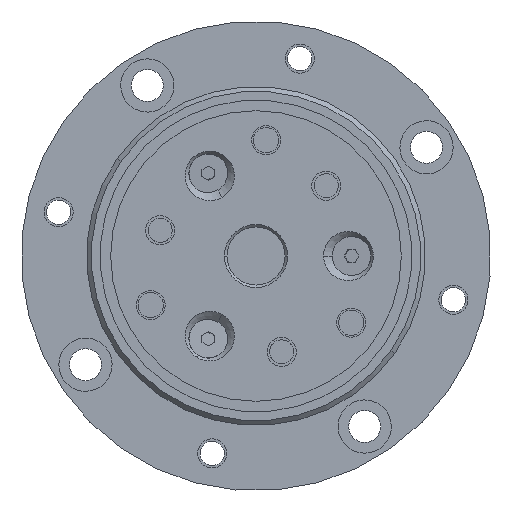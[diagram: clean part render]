
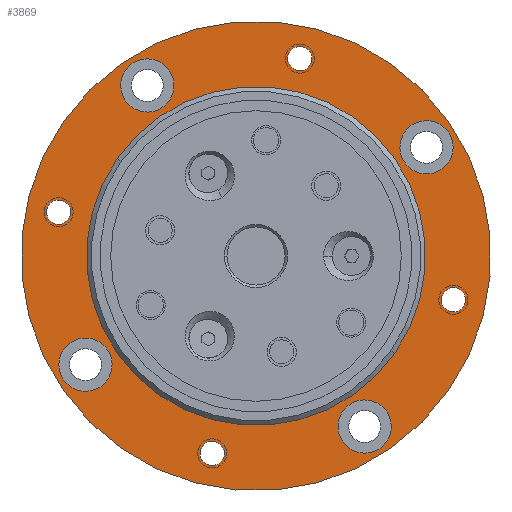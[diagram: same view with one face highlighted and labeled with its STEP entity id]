
A CAD part, front view. The second image highlights one B-rep face of the part: STEP entity #3869.
In plain terms, the highlighted planar face has unit normal (0, -1, 0).
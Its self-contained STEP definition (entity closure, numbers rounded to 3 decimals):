
#364=CARTESIAN_POINT('',(0.,6.,0.));
#365=DIRECTION('',(0.,1.,0.));
#366=DIRECTION('',(0.819,0.,-0.574));
#367=AXIS2_PLACEMENT_3D('',#364,#365,#366);
#369=CARTESIAN_POINT('',(0.,6.,0.));
#370=DIRECTION('',(0.,1.,0.));
#371=DIRECTION('',(-0.819,0.,0.574));
#372=AXIS2_PLACEMENT_3D('',#369,#370,#371);
#374=CARTESIAN_POINT('',(22.432,6.,-35.212));
#375=DIRECTION('',(0.,-1.,0.));
#376=DIRECTION('',(-0.537,0.,0.843));
#377=AXIS2_PLACEMENT_3D('',#374,#375,#376);
#379=CARTESIAN_POINT('',(22.432,6.,-35.212));
#380=DIRECTION('',(0.,-1.,0.));
#381=DIRECTION('',(0.537,0.,-0.843));
#382=AXIS2_PLACEMENT_3D('',#379,#380,#381);
#384=CARTESIAN_POINT('',(-35.212,6.,-22.432));
#385=DIRECTION('',(0.,-1.,0.));
#386=DIRECTION('',(0.843,0.,0.537));
#387=AXIS2_PLACEMENT_3D('',#384,#385,#386);
#389=CARTESIAN_POINT('',(-35.212,6.,-22.432));
#390=DIRECTION('',(0.,-1.,0.));
#391=DIRECTION('',(-0.843,0.,-0.537));
#392=AXIS2_PLACEMENT_3D('',#389,#390,#391);
#394=CARTESIAN_POINT('',(-22.432,6.,35.212));
#395=DIRECTION('',(0.,-1.,0.));
#396=DIRECTION('',(0.537,0.,-0.843));
#397=AXIS2_PLACEMENT_3D('',#394,#395,#396);
#399=CARTESIAN_POINT('',(-22.432,6.,35.212));
#400=DIRECTION('',(0.,-1.,0.));
#401=DIRECTION('',(-0.537,0.,0.843));
#402=AXIS2_PLACEMENT_3D('',#399,#400,#401);
#404=CARTESIAN_POINT('',(35.212,6.,22.432));
#405=DIRECTION('',(0.,-1.,0.));
#406=DIRECTION('',(-0.843,0.,-0.537));
#407=AXIS2_PLACEMENT_3D('',#404,#405,#406);
#409=CARTESIAN_POINT('',(35.212,6.,22.432));
#410=DIRECTION('',(0.,-1.,0.));
#411=DIRECTION('',(0.843,0.,0.537));
#412=AXIS2_PLACEMENT_3D('',#409,#410,#411);
#414=CARTESIAN_POINT('',(-9.036,6.,-40.76));
#415=DIRECTION('',(0.,-1.,0.));
#416=DIRECTION('',(0.216,0.,0.976));
#417=AXIS2_PLACEMENT_3D('',#414,#415,#416);
#419=CARTESIAN_POINT('',(-9.036,6.,-40.76));
#420=DIRECTION('',(0.,-1.,0.));
#421=DIRECTION('',(-0.216,0.,-0.976));
#422=AXIS2_PLACEMENT_3D('',#419,#420,#421);
#424=CARTESIAN_POINT('',(-40.76,6.,9.036));
#425=DIRECTION('',(0.,-1.,0.));
#426=DIRECTION('',(0.976,0.,-0.216));
#427=AXIS2_PLACEMENT_3D('',#424,#425,#426);
#429=CARTESIAN_POINT('',(-40.76,6.,9.036));
#430=DIRECTION('',(0.,-1.,0.));
#431=DIRECTION('',(-0.976,0.,0.216));
#432=AXIS2_PLACEMENT_3D('',#429,#430,#431);
#434=CARTESIAN_POINT('',(9.036,6.,40.76));
#435=DIRECTION('',(0.,-1.,0.));
#436=DIRECTION('',(-0.216,0.,-0.976));
#437=AXIS2_PLACEMENT_3D('',#434,#435,#436);
#439=CARTESIAN_POINT('',(9.036,6.,40.76));
#440=DIRECTION('',(0.,-1.,0.));
#441=DIRECTION('',(0.216,0.,0.976));
#442=AXIS2_PLACEMENT_3D('',#439,#440,#441);
#444=CARTESIAN_POINT('',(40.76,6.,-9.036));
#445=DIRECTION('',(0.,-1.,0.));
#446=DIRECTION('',(-0.976,0.,0.216));
#447=AXIS2_PLACEMENT_3D('',#444,#445,#446);
#449=CARTESIAN_POINT('',(40.76,6.,-9.036));
#450=DIRECTION('',(0.,-1.,0.));
#451=DIRECTION('',(0.976,0.,-0.216));
#452=AXIS2_PLACEMENT_3D('',#449,#450,#451);
#638=CARTESIAN_POINT('',(0.,6.,0.));
#639=DIRECTION('',(0.,1.,0.));
#640=DIRECTION('',(-0.819,0.,0.574));
#641=AXIS2_PLACEMENT_3D('',#638,#639,#640);
#643=CARTESIAN_POINT('',(0.,6.,0.));
#644=DIRECTION('',(0.,1.,0.));
#645=DIRECTION('',(0.819,0.,-0.574));
#646=AXIS2_PLACEMENT_3D('',#643,#644,#645);
#2951=CARTESIAN_POINT('',(39.729,6.,-27.818));
#2952=CARTESIAN_POINT('',(-39.729,6.,27.818));
#2953=VERTEX_POINT('',#2951);
#2954=VERTEX_POINT('',#2952);
#2955=CARTESIAN_POINT('',(19.477,6.,-30.573));
#2956=CARTESIAN_POINT('',(25.387,6.,-39.85));
#2957=VERTEX_POINT('',#2955);
#2958=VERTEX_POINT('',#2956);
#2959=CARTESIAN_POINT('',(-30.573,6.,-19.477));
#2960=CARTESIAN_POINT('',(-39.85,6.,-25.387));
#2961=VERTEX_POINT('',#2959);
#2962=VERTEX_POINT('',#2960);
#2963=CARTESIAN_POINT('',(-19.477,6.,30.573));
#2964=CARTESIAN_POINT('',(-25.387,6.,39.85));
#2965=VERTEX_POINT('',#2963);
#2966=VERTEX_POINT('',#2964);
#2967=CARTESIAN_POINT('',(30.573,6.,19.477));
#2968=CARTESIAN_POINT('',(39.85,6.,25.387));
#2969=VERTEX_POINT('',#2967);
#2970=VERTEX_POINT('',#2968);
#2971=CARTESIAN_POINT('',(-8.495,6.,-38.32));
#2972=CARTESIAN_POINT('',(-9.577,6.,-43.201));
#2973=VERTEX_POINT('',#2971);
#2974=VERTEX_POINT('',#2972);
#2975=CARTESIAN_POINT('',(-38.32,6.,8.495));
#2976=CARTESIAN_POINT('',(-43.201,6.,9.577));
#2977=VERTEX_POINT('',#2975);
#2978=VERTEX_POINT('',#2976);
#2979=CARTESIAN_POINT('',(8.495,6.,38.32));
#2980=CARTESIAN_POINT('',(9.577,6.,43.201));
#2981=VERTEX_POINT('',#2979);
#2982=VERTEX_POINT('',#2980);
#2983=CARTESIAN_POINT('',(38.32,6.,-8.495));
#2984=CARTESIAN_POINT('',(43.201,6.,-9.577));
#2985=VERTEX_POINT('',#2983);
#2986=VERTEX_POINT('',#2984);
#3455=CARTESIAN_POINT('',(-28.67,6.,20.075));
#3456=CARTESIAN_POINT('',(28.67,6.,-20.075));
#3457=VERTEX_POINT('',#3455);
#3458=VERTEX_POINT('',#3456);
#3805=CARTESIAN_POINT('',(0.,6.,0.));
#3806=DIRECTION('',(0.,1.,0.));
#3807=DIRECTION('',(0.819,0.,-0.574));
#3808=AXIS2_PLACEMENT_3D('',#3805,#3806,#3807);
#3809=PLANE('',#3808);
#3810=ORIENTED_EDGE('',*,*,#3795,.T.);
#3812=ORIENTED_EDGE('',*,*,#3811,.T.);
#3813=EDGE_LOOP('',(#3810,#3812));
#3814=FACE_OUTER_BOUND('',#3813,.F.);
#3816=ORIENTED_EDGE('',*,*,#3815,.T.);
#3818=ORIENTED_EDGE('',*,*,#3817,.T.);
#3819=EDGE_LOOP('',(#3816,#3818));
#3820=FACE_BOUND('',#3819,.F.);
#3822=ORIENTED_EDGE('',*,*,#3821,.T.);
#3824=ORIENTED_EDGE('',*,*,#3823,.T.);
#3825=EDGE_LOOP('',(#3822,#3824));
#3826=FACE_BOUND('',#3825,.F.);
#3828=ORIENTED_EDGE('',*,*,#3827,.T.);
#3830=ORIENTED_EDGE('',*,*,#3829,.T.);
#3831=EDGE_LOOP('',(#3828,#3830));
#3832=FACE_BOUND('',#3831,.F.);
#3834=ORIENTED_EDGE('',*,*,#3833,.T.);
#3836=ORIENTED_EDGE('',*,*,#3835,.T.);
#3837=EDGE_LOOP('',(#3834,#3836));
#3838=FACE_BOUND('',#3837,.F.);
#3840=ORIENTED_EDGE('',*,*,#3839,.T.);
#3842=ORIENTED_EDGE('',*,*,#3841,.T.);
#3843=EDGE_LOOP('',(#3840,#3842));
#3844=FACE_BOUND('',#3843,.F.);
#3846=ORIENTED_EDGE('',*,*,#3845,.T.);
#3848=ORIENTED_EDGE('',*,*,#3847,.T.);
#3849=EDGE_LOOP('',(#3846,#3848));
#3850=FACE_BOUND('',#3849,.F.);
#3852=ORIENTED_EDGE('',*,*,#3851,.T.);
#3854=ORIENTED_EDGE('',*,*,#3853,.T.);
#3855=EDGE_LOOP('',(#3852,#3854));
#3856=FACE_BOUND('',#3855,.F.);
#3858=ORIENTED_EDGE('',*,*,#3857,.T.);
#3860=ORIENTED_EDGE('',*,*,#3859,.T.);
#3861=EDGE_LOOP('',(#3858,#3860));
#3862=FACE_BOUND('',#3861,.F.);
#3864=ORIENTED_EDGE('',*,*,#3863,.F.);
#3866=ORIENTED_EDGE('',*,*,#3865,.F.);
#3867=EDGE_LOOP('',(#3864,#3866));
#3868=FACE_BOUND('',#3867,.F.);
#368=CIRCLE('',#367,48.5);
#373=CIRCLE('',#372,48.5);
#378=CIRCLE('',#377,5.5);
#383=CIRCLE('',#382,5.5);
#388=CIRCLE('',#387,5.5);
#393=CIRCLE('',#392,5.5);
#398=CIRCLE('',#397,5.5);
#403=CIRCLE('',#402,5.5);
#408=CIRCLE('',#407,5.5);
#413=CIRCLE('',#412,5.5);
#418=CIRCLE('',#417,2.5);
#423=CIRCLE('',#422,2.5);
#428=CIRCLE('',#427,2.5);
#433=CIRCLE('',#432,2.5);
#438=CIRCLE('',#437,2.5);
#443=CIRCLE('',#442,2.5);
#448=CIRCLE('',#447,2.5);
#453=CIRCLE('',#452,2.5);
#642=CIRCLE('',#641,35.);
#647=CIRCLE('',#646,35.);
#3795=EDGE_CURVE('',#2953,#2954,#368,.T.);
#3811=EDGE_CURVE('',#2954,#2953,#373,.T.);
#3815=EDGE_CURVE('',#2957,#2958,#378,.T.);
#3817=EDGE_CURVE('',#2958,#2957,#383,.T.);
#3821=EDGE_CURVE('',#2961,#2962,#388,.T.);
#3823=EDGE_CURVE('',#2962,#2961,#393,.T.);
#3827=EDGE_CURVE('',#2965,#2966,#398,.T.);
#3829=EDGE_CURVE('',#2966,#2965,#403,.T.);
#3833=EDGE_CURVE('',#2969,#2970,#408,.T.);
#3835=EDGE_CURVE('',#2970,#2969,#413,.T.);
#3839=EDGE_CURVE('',#2973,#2974,#418,.T.);
#3841=EDGE_CURVE('',#2974,#2973,#423,.T.);
#3845=EDGE_CURVE('',#2977,#2978,#428,.T.);
#3847=EDGE_CURVE('',#2978,#2977,#433,.T.);
#3851=EDGE_CURVE('',#2981,#2982,#438,.T.);
#3853=EDGE_CURVE('',#2982,#2981,#443,.T.);
#3857=EDGE_CURVE('',#2985,#2986,#448,.T.);
#3859=EDGE_CURVE('',#2986,#2985,#453,.T.);
#3863=EDGE_CURVE('',#3457,#3458,#642,.T.);
#3865=EDGE_CURVE('',#3458,#3457,#647,.T.);
#3869=ADVANCED_FACE('',(#3814,#3820,#3826,#3832,#3838,#3844,#3850,#3856,#3862,
#3868),#3809,.F.);
